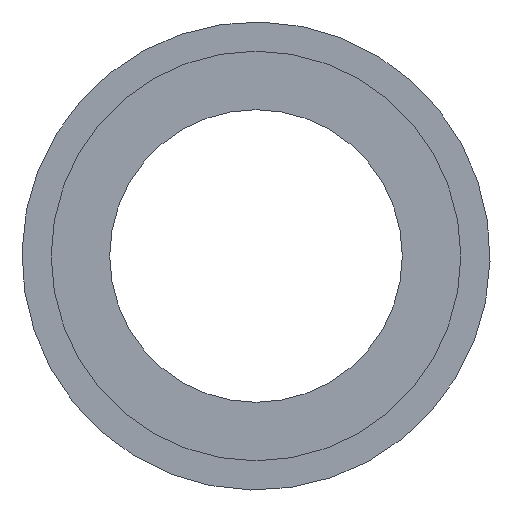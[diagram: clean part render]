
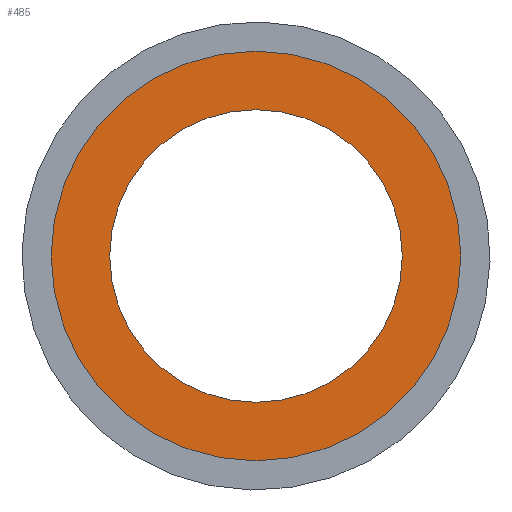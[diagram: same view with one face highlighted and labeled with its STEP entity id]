
A CAD part, front view. The second image highlights one B-rep face of the part: STEP entity #485.
In plain terms, the highlighted planar face has unit normal (0, -1, 0).
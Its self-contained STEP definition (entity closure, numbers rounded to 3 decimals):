
#424=CARTESIAN_POINT('Vertex',(0.,1.5,5.)) ;
#427=CARTESIAN_POINT('Axis2P3D Location',(0.,1.5,0.)) ;
#431=CARTESIAN_POINT('Vertex',(0.,1.5,-5.)) ;
#446=CARTESIAN_POINT('Axis2P3D Location',(0.,1.5,0.)) ;
#458=CARTESIAN_POINT('Axis2P3D Location',(0.,1.5,7.)) ;
#463=CARTESIAN_POINT('Axis2P3D Location',(0.,1.5,0.)) ;
#467=CARTESIAN_POINT('Vertex',(0.,1.5,-7.)) ;
#469=CARTESIAN_POINT('Vertex',(0.,1.5,7.)) ;
#472=CARTESIAN_POINT('Axis2P3D Location',(0.,1.5,0.)) ;
#428=DIRECTION('Axis2P3D Direction',(0.,-1.,0.)) ;
#447=DIRECTION('Axis2P3D Direction',(0.,-1.,0.)) ;
#459=DIRECTION('Axis2P3D Direction',(0.,-1.,0.)) ;
#460=DIRECTION('Axis2P3D XDirection',(1.,0.,0.)) ;
#464=DIRECTION('Axis2P3D Direction',(0.,-1.,0.)) ;
#473=DIRECTION('Axis2P3D Direction',(0.,-1.,0.)) ;
#429=AXIS2_PLACEMENT_3D('Circle Axis2P3D',#427,#428,$) ;
#448=AXIS2_PLACEMENT_3D('Circle Axis2P3D',#446,#447,$) ;
#461=AXIS2_PLACEMENT_3D('Plane Axis2P3D',#458,#459,#460) ;
#465=AXIS2_PLACEMENT_3D('Circle Axis2P3D',#463,#464,$) ;
#474=AXIS2_PLACEMENT_3D('Circle Axis2P3D',#472,#473,$) ;
#430=CIRCLE('generated circle',#429,5.) ;
#449=CIRCLE('generated circle',#448,5.) ;
#466=CIRCLE('generated circle',#465,7.) ;
#475=CIRCLE('generated circle',#474,7.) ;
#462=PLANE('',#461) ;
#484=FACE_BOUND('',#481,.T.) ;
#433=EDGE_CURVE('',#425,#432,#430,.T.) ;
#450=EDGE_CURVE('',#432,#425,#449,.T.) ;
#471=EDGE_CURVE('',#468,#470,#466,.T.) ;
#476=EDGE_CURVE('',#470,#468,#475,.T.) ;
#477=EDGE_LOOP('',(#478,#479)) ;
#481=EDGE_LOOP('',(#482,#483)) ;
#478=ORIENTED_EDGE('',*,*,#471,.T.) ;
#479=ORIENTED_EDGE('',*,*,#476,.T.) ;
#482=ORIENTED_EDGE('',*,*,#433,.F.) ;
#483=ORIENTED_EDGE('',*,*,#450,.F.) ;
#425=VERTEX_POINT('',#424) ;
#432=VERTEX_POINT('',#431) ;
#468=VERTEX_POINT('',#467) ;
#470=VERTEX_POINT('',#469) ;
#485=ADVANCED_FACE('Corps principal',(#480,#484),#462,.T.) ;
#480=FACE_OUTER_BOUND('',#477,.T.) ;
